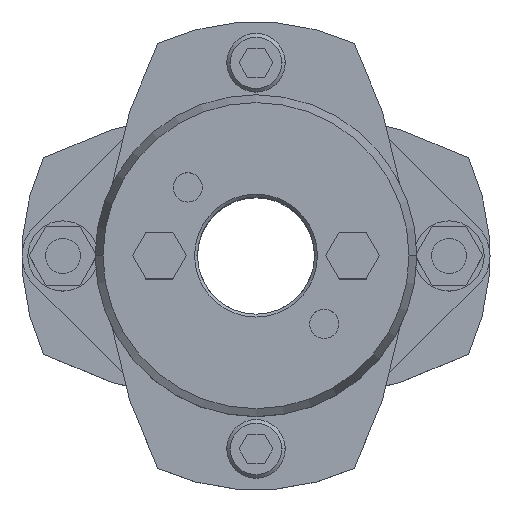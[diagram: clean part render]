
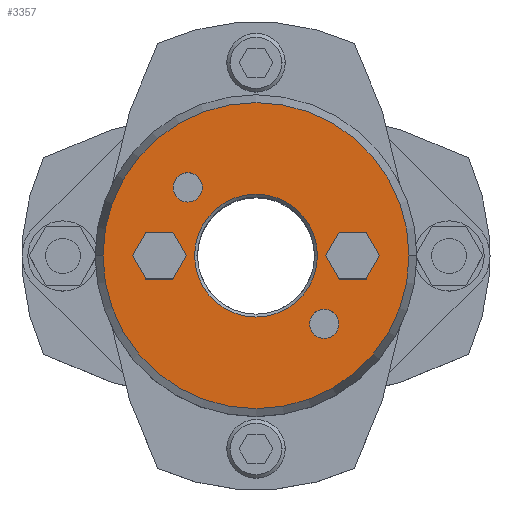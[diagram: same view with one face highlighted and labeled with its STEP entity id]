
A CAD part, top view. The second image highlights one B-rep face of the part: STEP entity #3357.
In plain terms, the highlighted planar face has unit normal (0, 0, 1).
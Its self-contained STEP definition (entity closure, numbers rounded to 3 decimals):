
#1471=CARTESIAN_POINT('',(-10.5,0.,35.875));
#1472=VERTEX_POINT('',#1471);
#1488=CARTESIAN_POINT('',(10.5,0.,35.875));
#1489=VERTEX_POINT('',#1488);
#1496=CARTESIAN_POINT('',(0.,0.,35.875));
#1497=DIRECTION('',(0.0,0.0,1.0));
#1498=DIRECTION('',(-1.0,0.0,0.0));
#1499=AXIS2_PLACEMENT_3D('',#1496,#1497,#1498);
#1500=CIRCLE('',#1499,10.5);
#1501=EDGE_CURVE('',#1489,#1472,#1500,.T.);
#1659=CARTESIAN_POINT('',(26.16,0.,35.875));
#1660=VERTEX_POINT('',#1659);
#1667=CARTESIAN_POINT('',(-26.16,0.,35.875));
#1668=VERTEX_POINT('',#1667);
#1669=CARTESIAN_POINT('',(0.,0.,35.875));
#1670=DIRECTION('',(0.0,0.0,-1.0));
#1671=DIRECTION('',(1.0,0.0,0.0));
#1672=AXIS2_PLACEMENT_3D('',#1669,#1670,#1671);
#1673=CIRCLE('',#1672,26.16);
#1674=EDGE_CURVE('',#1660,#1668,#1673,.T.);
#1769=CARTESIAN_POINT('',(-14.167,11.667,35.875));
#1770=VERTEX_POINT('',#1769);
#1786=CARTESIAN_POINT('',(-9.167,11.667,35.875));
#1787=VERTEX_POINT('',#1786);
#1794=CARTESIAN_POINT('',(-11.667,11.667,35.875));
#1795=DIRECTION('',(0.0,0.0,-1.0));
#1796=DIRECTION('',(-1.0,0.0,0.0));
#1797=AXIS2_PLACEMENT_3D('',#1794,#1795,#1796);
#1798=CIRCLE('',#1797,2.5);
#1799=EDGE_CURVE('',#1770,#1787,#1798,.T.);
#1811=CARTESIAN_POINT('',(9.167,-11.667,35.875));
#1812=VERTEX_POINT('',#1811);
#1828=CARTESIAN_POINT('',(14.167,-11.667,35.875));
#1829=VERTEX_POINT('',#1828);
#1836=CARTESIAN_POINT('',(11.667,-11.667,35.875));
#1837=DIRECTION('',(0.0,0.0,-1.0));
#1838=DIRECTION('',(-1.0,0.0,0.0));
#1839=AXIS2_PLACEMENT_3D('',#1836,#1837,#1838);
#1840=CIRCLE('',#1839,2.5);
#1841=EDGE_CURVE('',#1812,#1829,#1840,.T.);
#2592=CARTESIAN_POINT('',(11.667,-11.667,35.875));
#2593=DIRECTION('',(0.0,0.0,-1.0));
#2594=DIRECTION('',(-1.0,0.0,0.0));
#2595=AXIS2_PLACEMENT_3D('',#2592,#2593,#2594);
#2596=CIRCLE('',#2595,2.5);
#2597=EDGE_CURVE('',#1829,#1812,#2596,.T.);
#2626=CARTESIAN_POINT('',(-11.667,11.667,35.875));
#2627=DIRECTION('',(0.0,0.0,-1.0));
#2628=DIRECTION('',(-1.0,0.0,0.0));
#2629=AXIS2_PLACEMENT_3D('',#2626,#2627,#2628);
#2630=CIRCLE('',#2629,2.5);
#2631=EDGE_CURVE('',#1787,#1770,#2630,.T.);
#2669=CARTESIAN_POINT('',(11.881,0.,35.875));
#2670=VERTEX_POINT('',#2669);
#2677=CARTESIAN_POINT('',(14.191,-4.,35.875));
#2678=VERTEX_POINT('',#2677);
#2679=CARTESIAN_POINT('',(14.191,-4.,35.875));
#2680=DIRECTION('',(-0.5,0.866,0.0));
#2681=VECTOR('',#2680,4.619);
#2682=LINE('',#2679,#2681);
#2683=EDGE_CURVE('',#2678,#2670,#2682,.T.);
#2707=CARTESIAN_POINT('',(14.191,4.,35.875));
#2708=VERTEX_POINT('',#2707);
#2715=CARTESIAN_POINT('',(11.881,0.,35.875));
#2716=DIRECTION('',(0.5,0.866,0.0));
#2717=VECTOR('',#2716,4.619);
#2718=LINE('',#2715,#2717);
#2719=EDGE_CURVE('',#2670,#2708,#2718,.T.);
#2738=CARTESIAN_POINT('',(18.809,4.,35.875));
#2739=VERTEX_POINT('',#2738);
#2746=CARTESIAN_POINT('',(14.191,4.,35.875));
#2747=DIRECTION('',(1.0,0.0,0.0));
#2748=VECTOR('',#2747,4.619);
#2749=LINE('',#2746,#2748);
#2750=EDGE_CURVE('',#2708,#2739,#2749,.T.);
#2769=CARTESIAN_POINT('',(21.119,0.,35.875));
#2770=VERTEX_POINT('',#2769);
#2777=CARTESIAN_POINT('',(18.809,4.,35.875));
#2778=DIRECTION('',(0.5,-0.866,0.0));
#2779=VECTOR('',#2778,4.619);
#2780=LINE('',#2777,#2779);
#2781=EDGE_CURVE('',#2739,#2770,#2780,.T.);
#2800=CARTESIAN_POINT('',(18.809,-4.,35.875));
#2801=VERTEX_POINT('',#2800);
#2808=CARTESIAN_POINT('',(21.119,0.,35.875));
#2809=DIRECTION('',(-0.5,-0.866,0.0));
#2810=VECTOR('',#2809,4.619);
#2811=LINE('',#2808,#2810);
#2812=EDGE_CURVE('',#2770,#2801,#2811,.T.);
#2830=CARTESIAN_POINT('',(18.809,-4.,35.875));
#2831=DIRECTION('',(-1.0,0.0,0.0));
#2832=VECTOR('',#2831,4.619);
#2833=LINE('',#2830,#2832);
#2834=EDGE_CURVE('',#2801,#2678,#2833,.T.);
#2869=CARTESIAN_POINT('',(-21.119,0.,35.875));
#2870=VERTEX_POINT('',#2869);
#2877=CARTESIAN_POINT('',(-18.809,-4.,35.875));
#2878=VERTEX_POINT('',#2877);
#2879=CARTESIAN_POINT('',(-18.809,-4.,35.875));
#2880=DIRECTION('',(-0.5,0.866,0.0));
#2881=VECTOR('',#2880,4.619);
#2882=LINE('',#2879,#2881);
#2883=EDGE_CURVE('',#2878,#2870,#2882,.T.);
#2907=CARTESIAN_POINT('',(-18.809,4.,35.875));
#2908=VERTEX_POINT('',#2907);
#2915=CARTESIAN_POINT('',(-21.119,0.,35.875));
#2916=DIRECTION('',(0.5,0.866,0.0));
#2917=VECTOR('',#2916,4.619);
#2918=LINE('',#2915,#2917);
#2919=EDGE_CURVE('',#2870,#2908,#2918,.T.);
#2938=CARTESIAN_POINT('',(-14.191,4.,35.875));
#2939=VERTEX_POINT('',#2938);
#2946=CARTESIAN_POINT('',(-18.809,4.,35.875));
#2947=DIRECTION('',(1.0,0.0,0.0));
#2948=VECTOR('',#2947,4.619);
#2949=LINE('',#2946,#2948);
#2950=EDGE_CURVE('',#2908,#2939,#2949,.T.);
#2969=CARTESIAN_POINT('',(-11.881,0.,35.875));
#2970=VERTEX_POINT('',#2969);
#2977=CARTESIAN_POINT('',(-14.191,4.,35.875));
#2978=DIRECTION('',(0.5,-0.866,0.0));
#2979=VECTOR('',#2978,4.619);
#2980=LINE('',#2977,#2979);
#2981=EDGE_CURVE('',#2939,#2970,#2980,.T.);
#3000=CARTESIAN_POINT('',(-14.191,-4.,35.875));
#3001=VERTEX_POINT('',#3000);
#3008=CARTESIAN_POINT('',(-11.881,0.,35.875));
#3009=DIRECTION('',(-0.5,-0.866,0.0));
#3010=VECTOR('',#3009,4.619);
#3011=LINE('',#3008,#3010);
#3012=EDGE_CURVE('',#2970,#3001,#3011,.T.);
#3030=CARTESIAN_POINT('',(-14.191,-4.,35.875));
#3031=DIRECTION('',(-1.0,0.0,0.0));
#3032=VECTOR('',#3031,4.619);
#3033=LINE('',#3030,#3032);
#3034=EDGE_CURVE('',#3001,#2878,#3033,.T.);
#3304=CARTESIAN_POINT('',(0.,0.,35.875));
#3305=DIRECTION('',(0.0,0.0,-1.0));
#3306=DIRECTION('',(1.0,0.0,0.0));
#3307=AXIS2_PLACEMENT_3D('',#3304,#3305,#3306);
#3308=CIRCLE('',#3307,26.16);
#3309=EDGE_CURVE('',#1668,#1660,#3308,.T.);
#3314=CARTESIAN_POINT('',(-2.364,0.,35.875));
#3315=DIRECTION('',(0.0,0.0,1.0));
#3316=DIRECTION('',(-1.0,0.0,0.0));
#3317=AXIS2_PLACEMENT_3D('',#3314,#3315,#3316);
#3318=PLANE('',#3317);
#3319=ORIENTED_EDGE('',*,*,#3309,.F.);
#3320=ORIENTED_EDGE('',*,*,#1674,.F.);
#3321=EDGE_LOOP('',(#3319,#3320));
#3322=FACE_OUTER_BOUND('',#3321,.T.);
#3323=ORIENTED_EDGE('',*,*,#1841,.T.);
#3324=ORIENTED_EDGE('',*,*,#2597,.T.);
#3325=EDGE_LOOP('',(#3323,#3324));
#3326=FACE_BOUND('',#3325,.T.);
#3327=ORIENTED_EDGE('',*,*,#1799,.T.);
#3328=ORIENTED_EDGE('',*,*,#2631,.T.);
#3329=EDGE_LOOP('',(#3327,#3328));
#3330=FACE_BOUND('',#3329,.T.);
#3331=ORIENTED_EDGE('',*,*,#2683,.T.);
#3332=ORIENTED_EDGE('',*,*,#2719,.T.);
#3333=ORIENTED_EDGE('',*,*,#2750,.T.);
#3334=ORIENTED_EDGE('',*,*,#2781,.T.);
#3335=ORIENTED_EDGE('',*,*,#2812,.T.);
#3336=ORIENTED_EDGE('',*,*,#2834,.T.);
#3337=EDGE_LOOP('',(#3331,#3332,#3333,#3334,#3335,#3336));
#3338=FACE_BOUND('',#3337,.T.);
#3339=ORIENTED_EDGE('',*,*,#2883,.T.);
#3340=ORIENTED_EDGE('',*,*,#2919,.T.);
#3341=ORIENTED_EDGE('',*,*,#2950,.T.);
#3342=ORIENTED_EDGE('',*,*,#2981,.T.);
#3343=ORIENTED_EDGE('',*,*,#3012,.T.);
#3344=ORIENTED_EDGE('',*,*,#3034,.T.);
#3345=EDGE_LOOP('',(#3339,#3340,#3341,#3342,#3343,#3344));
#3346=FACE_BOUND('',#3345,.T.);
#3347=ORIENTED_EDGE('',*,*,#1501,.F.);
#3348=CARTESIAN_POINT('',(0.,0.,35.875));
#3349=DIRECTION('',(0.0,0.0,1.0));
#3350=DIRECTION('',(-1.0,0.0,0.0));
#3351=AXIS2_PLACEMENT_3D('',#3348,#3349,#3350);
#3352=CIRCLE('',#3351,10.5);
#3353=EDGE_CURVE('',#1472,#1489,#3352,.T.);
#3354=ORIENTED_EDGE('',*,*,#3353,.F.);
#3355=EDGE_LOOP('',(#3347,#3354));
#3356=FACE_BOUND('',#3355,.T.);
#3357=ADVANCED_FACE('',(#3322,#3326,#3330,#3338,#3346,#3356),#3318,.T.);
